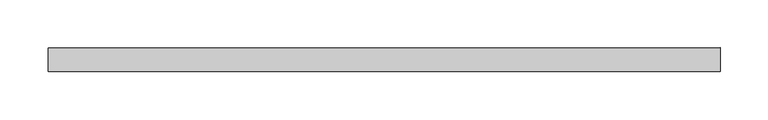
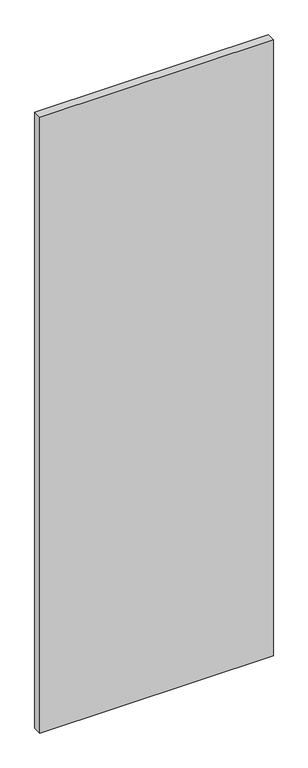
"""IFC4 building model written with IfcOpenShell, lengths in millimetres: plate geometry, Системная панель : С остеклением."""

from ifc_helpers import new_model, si_unit, origin, origin_with_axes, place, context, project, spatial, polyline, outline, extrude, source, transform, mapped, element, save


def plate_7cd0ac15(model_context):
    return source(origin(), model_context, "Body", "SweptSolid", [
        extrude(outline(polyline([(350.0, 24.5), (-350.0, 24.5), (-350.0, 49.5), (350.0, 49.5), (350.0, 24.5)])), origin_with_axes(), (0.0, 0.0, 1.0), 1950.0),
    ])


if __name__ == "__main__":
    model = new_model("IFC4")
    model_context = context("Model", 3, world=origin())
    ifc_project = project(units=[si_unit("LENGTHUNIT", "METRE", prefix="MILLI")], contexts=[model_context])
    site = spatial("IfcSite", under=ifc_project)
    building = spatial("IfcBuilding", under=site)
    placement = place(None, origin())
    plate_shape = plate_7cd0ac15(model_context)
    element("IfcPlate", 1, ObjectType="Системная панель : С остеклением", at=placement, inside=building, context=model_context, shape_type="MappedRepresentation", body=[
        mapped(plate_shape, transform((0.0, 0.0, 0.0), x_axis=(1.0, 0.0, 0.0), y_axis=(0.0, 1.0, 0.0), z_axis=(0.0, 0.0, 1.0))),
    ])
    save(model, "model.ifc")
